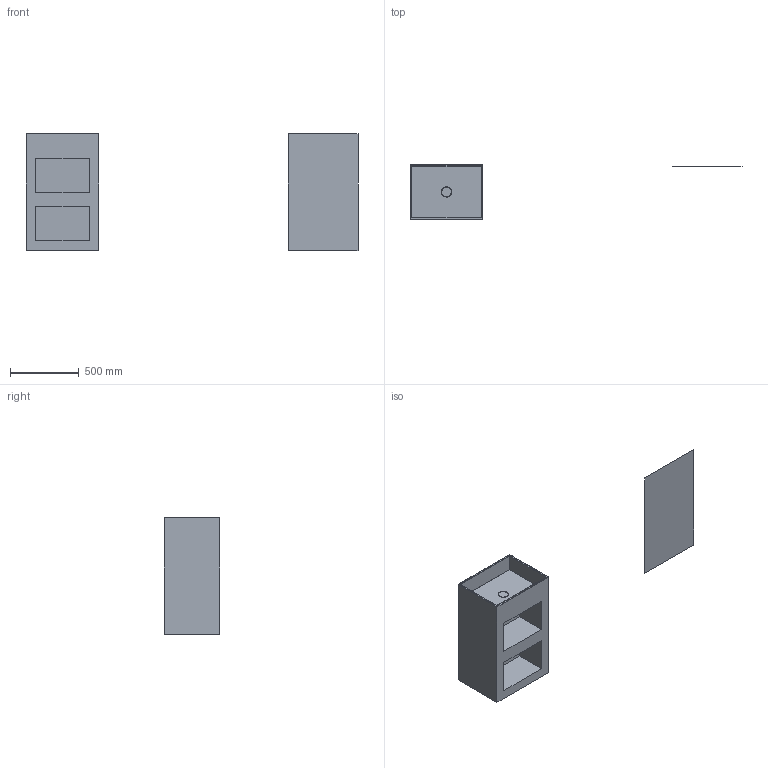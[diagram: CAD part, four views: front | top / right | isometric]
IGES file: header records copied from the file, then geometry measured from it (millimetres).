
Global section: file name: D:\Desktop\GIOVANNI\SCHEDE PRODOTTO\LAVABI\FREESTANDING\TOWER CUBE\3D\MOMA DESIGN_LAVABI FREESTANDING_TOWER CUBE 1.igs; native system: Rhinoceros ( Jan 17 2018 ); preprocessor: Trout Lake IGES 012 Jan 17 2018; date: 230530.131100; units: millimetre
Bounding box: 2410.43 x 400 x 850 mm (x, y, z)
Surface area: 4292264.7 mm2 (no closed solid volume)
Topology: 0 solids, 0 shells, 39 faces, 189 edges, 188 vertices
Faces by surface type: bspline 39
